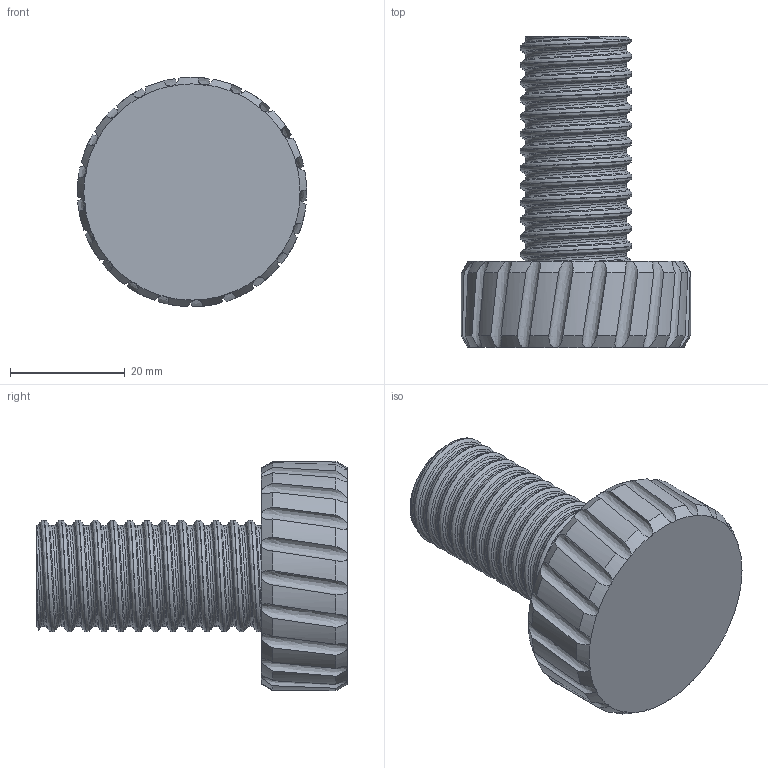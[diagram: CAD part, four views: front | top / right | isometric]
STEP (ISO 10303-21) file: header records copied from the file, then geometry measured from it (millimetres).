
FILE_DESCRIPTION(/* description */ ('Enter Title Here'),/* implementation_level */ '2;1');
FILE_NAME(/* name */ 'Hobby_HeadphoneHolder_Screw.stp',/* time_stamp */ '2023-08-24T18:36:04+01:00',/* author */ ('kwzf494'),/* organization */ ('AstraZeneca'),/* preprocessor_version */ 'ST-DEVELOPER v19.2',/* originating_system */ 'Autodesk Inventor 2023',/* authorisation */ 'Bryan Windus-Smith');
FILE_SCHEMA (('CONFIG_CONTROL_DESIGN'));
Length unit declared in the file: millimetre
Products named in the file (1): Hobby_HeadphoneHolder_Screw
Bounding box: 39.99 x 54.2 x 40 mm (x, y, z)
Volume: 28460.5 mm3; surface area: 7412.9 mm2
Topology: 1 solids, 1 shells, 121 faces, 394 edges, 276 vertices
Faces by surface type: cylinder 48, cone 43, bspline 27, plane 3
Full cylindrical faces by diameter (mm): 17.58 x12, 19.5 x11
Entity records: 12574 total; most frequent: CARTESIAN_POINT 9587, ORIENTED_EDGE 788, EDGE_CURVE 394, DIRECTION 393, B_SPLINE_CURVE_WITH_KNOTS 280, VERTEX_POINT 276, AXIS2_PLACEMENT_3D 184, EDGE_LOOP 122
